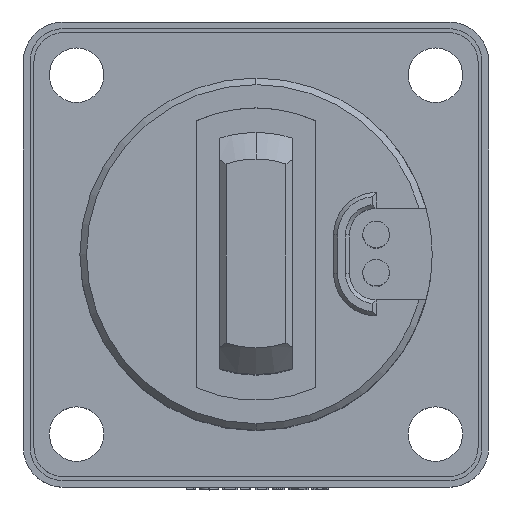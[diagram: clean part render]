
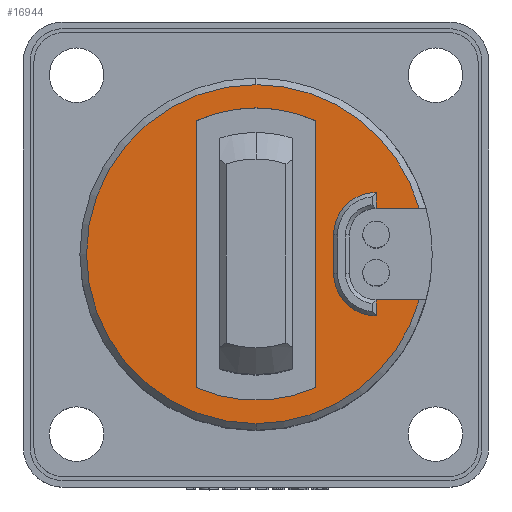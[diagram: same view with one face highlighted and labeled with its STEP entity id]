
A CAD part, top view. The second image highlights one B-rep face of the part: STEP entity #16944.
In plain terms, the highlighted planar face has unit normal (0, 0, 1).
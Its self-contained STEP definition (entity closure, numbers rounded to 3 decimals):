
#39 = DIRECTION ( 'NONE',  ( 0., -1., 0. ) ) ;
#164 = DIRECTION ( 'NONE',  ( 1., 0., 0. ) ) ;
#507 = ORIENTED_EDGE ( 'NONE', *, *, #13428, .F. ) ;
#888 = CIRCLE ( 'NONE', #12078, 11. ) ;
#1230 = EDGE_CURVE ( 'NONE', #7419, #15600, #22620, .T. ) ;
#1341 = LINE ( 'NONE', #6135, #15246 ) ;
#1799 = DIRECTION ( 'NONE',  ( 0., -1., 0. ) ) ;
#1996 = EDGE_CURVE ( 'NONE', #18532, #13676, #15995, .T. ) ;
#2095 = VECTOR ( 'NONE', #8877, 1000. ) ;
#2113 = CIRCLE ( 'NONE', #14077, 3.2 ) ;
#2328 = CARTESIAN_POINT ( 'NONE',  ( 10.013, -0.237, 21.8 ) ) ;
#2466 = EDGE_CURVE ( 'NONE', #16111, #15600, #3489, .T. ) ;
#2605 = DIRECTION ( 'NONE',  ( 0., 0., 1. ) ) ;
#3208 = VERTEX_POINT ( 'NONE', #11254 ) ;
#3223 = CARTESIAN_POINT ( 'NONE',  ( 0.977, 13.953, 21.8 ) ) ;
#3455 = ORIENTED_EDGE ( 'NONE', *, *, #15820, .F. ) ;
#3489 = LINE ( 'NONE', #11785, #8363 ) ;
#3676 = CARTESIAN_POINT ( 'NONE',  ( 0.977, 1.203, 21.8 ) ) ;
#3712 = PLANE ( 'NONE',  #21061 ) ;
#4178 = DIRECTION ( 'NONE',  ( 0., -1., 0. ) ) ;
#4485 = EDGE_CURVE ( 'NONE', #3208, #18532, #2113, .T. ) ;
#4684 = AXIS2_PLACEMENT_3D ( 'NONE', #15672, #4887, #17510 ) ;
#4887 = DIRECTION ( 'NONE',  ( 0., 0., -1. ) ) ;
#5515 = DIRECTION ( 'NONE',  ( 0., 1., 0. ) ) ;
#5528 = ORIENTED_EDGE ( 'NONE', *, *, #4485, .F. ) ;
#5704 = VERTEX_POINT ( 'NONE', #14063 ) ;
#6135 = CARTESIAN_POINT ( 'NONE',  ( 10.013, -2.237, 21.8 ) ) ;
#6438 = CIRCLE ( 'NONE', #21353, 12.75 ) ;
#6490 = CARTESIAN_POINT ( 'NONE',  ( 0.977, -11.547, 21.8 ) ) ;
#6698 = DIRECTION ( 'NONE',  ( 0., 0., 1. ) ) ;
#6802 = ORIENTED_EDGE ( 'NONE', *, *, #1996, .F. ) ;
#7199 = CARTESIAN_POINT ( 'NONE',  ( 0.977, 12.203, 21.8 ) ) ;
#7375 = EDGE_CURVE ( 'NONE', #17679, #12183, #11788, .T. ) ;
#7419 = VERTEX_POINT ( 'NONE', #3223 ) ;
#7657 = CARTESIAN_POINT ( 'NONE',  ( 0.977, 1.203, 21.8 ) ) ;
#7910 = ORIENTED_EDGE ( 'NONE', *, *, #21694, .F. ) ;
#7942 = LINE ( 'NONE', #8104, #8525 ) ;
#8104 = CARTESIAN_POINT ( 'NONE',  ( -3.523, 1.203, 21.8 ) ) ;
#8207 = CARTESIAN_POINT ( 'NONE',  ( 5.477, 11.24, 21.8 ) ) ;
#8363 = VECTOR ( 'NONE', #164, 1000. ) ;
#8492 = CARTESIAN_POINT ( 'NONE',  ( 6.813, 1.203, 21.8 ) ) ;
#8517 = ORIENTED_EDGE ( 'NONE', *, *, #19404, .F. ) ;
#8525 = VECTOR ( 'NONE', #9925, 1000. ) ;
#8580 = AXIS2_PLACEMENT_3D ( 'NONE', #17480, #6698, #19233 ) ;
#8604 = EDGE_CURVE ( 'NONE', #8622, #17679, #888, .T. ) ;
#8622 = VERTEX_POINT ( 'NONE', #23246 ) ;
#8629 = CARTESIAN_POINT ( 'NONE',  ( 10.013, -3.437, 21.8 ) ) ;
#8664 = CARTESIAN_POINT ( 'NONE',  ( 5.477, 1.203, 21.8 ) ) ;
#8683 = CIRCLE ( 'NONE', #22063, 11. ) ;
#8877 = DIRECTION ( 'NONE',  ( 0., -1., 0. ) ) ;
#9388 = CARTESIAN_POINT ( 'NONE',  ( -3.523, 11.24, 21.8 ) ) ;
#9483 = DIRECTION ( 'NONE',  ( 0., -1., 0. ) ) ;
#9925 = DIRECTION ( 'NONE',  ( 0., -1., 0. ) ) ;
#10995 = EDGE_CURVE ( 'NONE', #17005, #8622, #7942, .T. ) ;
#11022 = DIRECTION ( 'NONE',  ( 0., 0., -1. ) ) ;
#11145 = CARTESIAN_POINT ( 'NONE',  ( 6.813, -0.237, 21.8 ) ) ;
#11254 = CARTESIAN_POINT ( 'NONE',  ( 10.013, 5.842, 21.8 ) ) ;
#11280 = DIRECTION ( 'NONE',  ( 0., 1., 0. ) ) ;
#11638 = LINE ( 'NONE', #14170, #15838 ) ;
#11785 = CARTESIAN_POINT ( 'NONE',  ( 10.013, 4.642, 21.8 ) ) ;
#11788 = LINE ( 'NONE', #8664, #16564 ) ;
#11984 = EDGE_CURVE ( 'NONE', #5704, #14444, #6438, .T. ) ;
#12078 = AXIS2_PLACEMENT_3D ( 'NONE', #3676, #16329, #5515 ) ;
#12121 = EDGE_CURVE ( 'NONE', #16426, #17005, #8683, .T. ) ;
#12183 = VERTEX_POINT ( 'NONE', #8207 ) ;
#12450 = ORIENTED_EDGE ( 'NONE', *, *, #23256, .T. ) ;
#12648 = ORIENTED_EDGE ( 'NONE', *, *, #12121, .F. ) ;
#12715 = DIRECTION ( 'NONE',  ( 0., 0., 1. ) ) ;
#13135 = LINE ( 'NONE', #14960, #22498 ) ;
#13333 = FACE_OUTER_BOUND ( 'NONE', #21084, .T. ) ;
#13428 = EDGE_CURVE ( 'NONE', #12183, #16426, #22155, .T. ) ;
#13488 = CARTESIAN_POINT ( 'NONE',  ( 0.977, 1.203, 21.8 ) ) ;
#13676 = VERTEX_POINT ( 'NONE', #11145 ) ;
#14044 = ORIENTED_EDGE ( 'NONE', *, *, #11984, .F. ) ;
#14063 = CARTESIAN_POINT ( 'NONE',  ( 13.254, -2.237, 21.8 ) ) ;
#14075 = VERTEX_POINT ( 'NONE', #8629 ) ;
#14077 = AXIS2_PLACEMENT_3D ( 'NONE', #23230, #12715, #1799 ) ;
#14170 = CARTESIAN_POINT ( 'NONE',  ( 10.013, 1.203, 21.8 ) ) ;
#14273 = ORIENTED_EDGE ( 'NONE', *, *, #16799, .F. ) ;
#14444 = VERTEX_POINT ( 'NONE', #6490 ) ;
#14688 = CARTESIAN_POINT ( 'NONE',  ( 10.013, 4.642, 21.8 ) ) ;
#14885 = CARTESIAN_POINT ( 'NONE',  ( 5.477, -8.835, 21.8 ) ) ;
#14960 = CARTESIAN_POINT ( 'NONE',  ( 10.013, 1.203, 21.8 ) ) ;
#15012 = DIRECTION ( 'NONE',  ( 0., 0., 1. ) ) ;
#15246 = VECTOR ( 'NONE', #20448, 1000. ) ;
#15282 = DIRECTION ( 'NONE',  ( 0., 1., 0. ) ) ;
#15316 = ORIENTED_EDGE ( 'NONE', *, *, #1230, .F. ) ;
#15600 = VERTEX_POINT ( 'NONE', #18815 ) ;
#15672 = CARTESIAN_POINT ( 'NONE',  ( 0.977, 1.203, 21.8 ) ) ;
#15820 = EDGE_CURVE ( 'NONE', #16111, #3208, #11638, .T. ) ;
#15838 = VECTOR ( 'NONE', #15958, 1000. ) ;
#15958 = DIRECTION ( 'NONE',  ( 0., 1., 0. ) ) ;
#15995 = LINE ( 'NONE', #8492, #2095 ) ;
#16111 = VERTEX_POINT ( 'NONE', #14688 ) ;
#16329 = DIRECTION ( 'NONE',  ( 0., 0., 1. ) ) ;
#16426 = VERTEX_POINT ( 'NONE', #7199 ) ;
#16564 = VECTOR ( 'NONE', #19395, 1000. ) ;
#16799 = EDGE_CURVE ( 'NONE', #14444, #7419, #18615, .T. ) ;
#16877 = ORIENTED_EDGE ( 'NONE', *, *, #8604, .F. ) ;
#16944 = ADVANCED_FACE ( 'NONE', ( #18105, #13333 ), #3712, .F. ) ;
#17005 = VERTEX_POINT ( 'NONE', #9388 ) ;
#17244 = ORIENTED_EDGE ( 'NONE', *, *, #2466, .T. ) ;
#17246 = CIRCLE ( 'NONE', #19176, 3.2 ) ;
#17372 = DIRECTION ( 'NONE',  ( 0., -1., 0. ) ) ;
#17375 = DIRECTION ( 'NONE',  ( 0., 0., -1. ) ) ;
#17401 = CARTESIAN_POINT ( 'NONE',  ( 0.977, 1.203, 21.8 ) ) ;
#17480 = CARTESIAN_POINT ( 'NONE',  ( 0.977, 1.203, 21.8 ) ) ;
#17510 = DIRECTION ( 'NONE',  ( 0., -1., 0. ) ) ;
#17631 = ORIENTED_EDGE ( 'NONE', *, *, #7375, .F. ) ;
#17679 = VERTEX_POINT ( 'NONE', #14885 ) ;
#18105 = FACE_BOUND ( 'NONE', #20270, .T. ) ;
#18532 = VERTEX_POINT ( 'NONE', #19154 ) ;
#18615 = CIRCLE ( 'NONE', #4684, 12.75 ) ;
#18815 = CARTESIAN_POINT ( 'NONE',  ( 13.254, 4.642, 21.8 ) ) ;
#18847 = VERTEX_POINT ( 'NONE', #20092 ) ;
#19154 = CARTESIAN_POINT ( 'NONE',  ( 6.813, 2.642, 21.8 ) ) ;
#19176 = AXIS2_PLACEMENT_3D ( 'NONE', #2328, #15012, #4178 ) ;
#19233 = DIRECTION ( 'NONE',  ( 0., 1., 0. ) ) ;
#19395 = DIRECTION ( 'NONE',  ( 0., 1., 0. ) ) ;
#19404 = EDGE_CURVE ( 'NONE', #14075, #18847, #13135, .T. ) ;
#19491 = AXIS2_PLACEMENT_3D ( 'NONE', #17401, #17375, #17372 ) ;
#20092 = CARTESIAN_POINT ( 'NONE',  ( 10.013, -2.237, 21.8 ) ) ;
#20163 = DIRECTION ( 'NONE',  ( 0., 0., -1. ) ) ;
#20270 = EDGE_LOOP ( 'NONE', ( #16877, #22042, #12648, #507, #17631 ) ) ;
#20448 = DIRECTION ( 'NONE',  ( -1., 0., 0. ) ) ;
#21061 = AXIS2_PLACEMENT_3D ( 'NONE', #21652, #11022, #39 ) ;
#21084 = EDGE_LOOP ( 'NONE', ( #17244, #15316, #14273, #14044, #12450, #8517, #7910, #6802, #5528, #3455 ) ) ;
#21353 = AXIS2_PLACEMENT_3D ( 'NONE', #7657, #20163, #9483 ) ;
#21652 = CARTESIAN_POINT ( 'NONE',  ( -3.723, 1.203, 21.8 ) ) ;
#21694 = EDGE_CURVE ( 'NONE', #13676, #14075, #17246, .T. ) ;
#22042 = ORIENTED_EDGE ( 'NONE', *, *, #10995, .F. ) ;
#22063 = AXIS2_PLACEMENT_3D ( 'NONE', #13488, #2605, #15282 ) ;
#22155 = CIRCLE ( 'NONE', #8580, 11. ) ;
#22498 = VECTOR ( 'NONE', #11280, 1000. ) ;
#22620 = CIRCLE ( 'NONE', #19491, 12.75 ) ;
#23230 = CARTESIAN_POINT ( 'NONE',  ( 10.013, 2.642, 21.8 ) ) ;
#23246 = CARTESIAN_POINT ( 'NONE',  ( -3.523, -8.835, 21.8 ) ) ;
#23256 = EDGE_CURVE ( 'NONE', #5704, #18847, #1341, .T. ) ;
